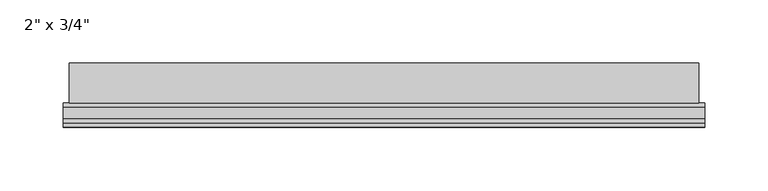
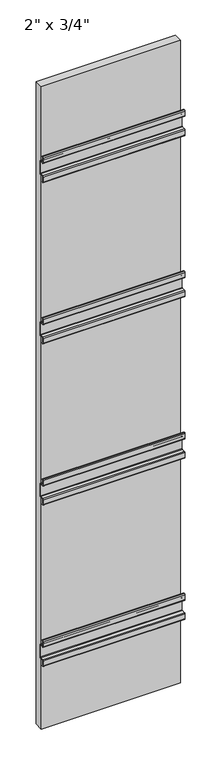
"""IFC4 building model written with IfcOpenShell, lengths in millimetres: plate geometry."""

from ifc_helpers import new_model, si_unit, point, frame, frame_2d, origin, place, context, project, spatial, polyline, circle_curve, trimmed, segment, composite_curve, outline, extrude, source, transform, mapped, element, save


def plate_c225038f(model_context):
    return source(origin(), model_context, "Body", "SweptSolid", [
        extrude(outline(composite_curve([segment(trimmed(circle_curve(frame_2d((3.175, 2085.975)), 3.175), [point((3.175, 2082.8))], [point((0.0, 2085.975))], False, "CARTESIAN"), True, "CONTINUOUS"), segment(polyline([(0.0, 2085.975), (0.0, 2104.2376)]), True, "CONTINUOUS"), segment(trimmed(circle_curve(frame_2d((3.175, 2104.2376)), 3.175), [point((0.0, 2104.2376))], [point((3.175, 2107.4126))], False, "CARTESIAN"), True, "CONTINUOUS"), segment(polyline([(3.175, 2107.4126), (15.875, 2107.4126)]), True, "CONTINUOUS"), segment(trimmed(circle_curve(frame_2d((15.875, 2109.0001)), 1.5875), [point((15.875, 2107.4126))], [point((17.4625, 2109.0001))], True, "CARTESIAN"), True, "CONTINUOUS"), segment(polyline([(17.4625, 2109.0001), (17.4625, 2153.4501)]), True, "CONTINUOUS"), segment(trimmed(circle_curve(frame_2d((15.875, 2153.4501)), 1.5875), [point((17.4625, 2153.4501))], [point((15.875, 2155.0376))], True, "CARTESIAN"), True, "CONTINUOUS"), segment(polyline([(15.875, 2155.0376), (3.175, 2155.0376)]), True, "CONTINUOUS"), segment(trimmed(circle_curve(frame_2d((3.175, 2158.2126)), 3.175), [point((3.175, 2155.0376))], [point((0.0, 2158.2126))], False, "CARTESIAN"), True, "CONTINUOUS"), segment(polyline([(0.0, 2158.2126), (0.0, 2176.4752)]), True, "CONTINUOUS"), segment(trimmed(circle_curve(frame_2d((3.175, 2176.4752)), 3.175), [point((0.0, 2176.4752))], [point((3.175, 2179.6502))], False, "CARTESIAN"), True, "CONTINUOUS"), segment(polyline([(3.175, 2179.6502), (6.35, 2179.6502), (6.35, 2178.0627), (3.175, 2178.0627)]), True, "CONTINUOUS"), segment(trimmed(circle_curve(frame_2d((3.175, 2176.4752)), 1.5875), [point((3.175, 2178.0627))], [point((1.5875, 2176.4752))], True, "CARTESIAN"), True, "CONTINUOUS"), segment(polyline([(1.5875, 2176.4752), (1.5875, 2158.2126)]), True, "CONTINUOUS"), segment(trimmed(circle_curve(frame_2d((3.175, 2158.2126)), 1.5875), [point((1.5875, 2158.2126))], [point((3.175, 2156.6251))], True, "CARTESIAN"), True, "CONTINUOUS"), segment(polyline([(3.175, 2156.6251), (15.875, 2156.6251)]), True, "CONTINUOUS"), segment(trimmed(circle_curve(frame_2d((15.875, 2153.4501)), 3.175), [point((15.875, 2156.6251))], [point((19.05, 2153.4501))], False, "CARTESIAN"), True, "CONTINUOUS"), segment(polyline([(19.05, 2153.4501), (19.05, 2109.0001)]), True, "CONTINUOUS"), segment(trimmed(circle_curve(frame_2d((15.875, 2109.0001)), 3.175), [point((19.05, 2109.0001))], [point((15.875, 2105.8251))], False, "CARTESIAN"), True, "CONTINUOUS"), segment(polyline([(15.875, 2105.8251), (3.175, 2105.8251)]), True, "CONTINUOUS"), segment(trimmed(circle_curve(frame_2d((3.175, 2104.2376)), 1.5875), [point((3.175, 2105.8251))], [point((1.5875, 2104.2376))], True, "CARTESIAN"), True, "CONTINUOUS"), segment(polyline([(1.5875, 2104.2376), (1.5875, 2085.975)]), True, "CONTINUOUS"), segment(trimmed(circle_curve(frame_2d((3.175, 2085.975)), 1.5875), [point((1.5875, 2085.975))], [point((3.175, 2084.3875))], True, "CARTESIAN"), True, "CONTINUOUS"), segment(polyline([(3.175, 2084.3875), (6.35, 2084.3875), (6.35, 2082.8), (3.175, 2082.8)]), True, "CONTINUOUS")], self_intersect=False)), frame((-253.9999998, 0.0, 0.0), z_axis=(1.0, 0.0, 0.0), x_axis=(0.0, 1.0, 0.0)), (0.0, 0.0, 1.0), 507.9999997),
        extrude(outline(composite_curve([segment(trimmed(circle_curve(frame_2d((3.175, 1476.375)), 3.175), [point((3.175, 1473.2))], [point((0.0, 1476.375))], False, "CARTESIAN"), True, "CONTINUOUS"), segment(polyline([(0.0, 1476.375), (0.0, 1494.6376)]), True, "CONTINUOUS"), segment(trimmed(circle_curve(frame_2d((3.175, 1494.6376)), 3.175), [point((0.0, 1494.6376))], [point((3.175, 1497.8126))], False, "CARTESIAN"), True, "CONTINUOUS"), segment(polyline([(3.175, 1497.8126), (15.875, 1497.8126)]), True, "CONTINUOUS"), segment(trimmed(circle_curve(frame_2d((15.875, 1499.4001)), 1.5875), [point((15.875, 1497.8126))], [point((17.4625, 1499.4001))], True, "CARTESIAN"), True, "CONTINUOUS"), segment(polyline([(17.4625, 1499.4001), (17.4625, 1543.8501)]), True, "CONTINUOUS"), segment(trimmed(circle_curve(frame_2d((15.875, 1543.8501)), 1.5875), [point((17.4625, 1543.8501))], [point((15.875, 1545.4376))], True, "CARTESIAN"), True, "CONTINUOUS"), segment(polyline([(15.875, 1545.4376), (3.175, 1545.4376)]), True, "CONTINUOUS"), segment(trimmed(circle_curve(frame_2d((3.175, 1548.6126)), 3.175), [point((3.175, 1545.4376))], [point((0.0, 1548.6126))], False, "CARTESIAN"), True, "CONTINUOUS"), segment(polyline([(0.0, 1548.6126), (0.0, 1566.8752)]), True, "CONTINUOUS"), segment(trimmed(circle_curve(frame_2d((3.175, 1566.8752)), 3.175), [point((0.0, 1566.8752))], [point((3.175, 1570.0502))], False, "CARTESIAN"), True, "CONTINUOUS"), segment(polyline([(3.175, 1570.0502), (6.35, 1570.0502), (6.35, 1568.4627), (3.175, 1568.4627)]), True, "CONTINUOUS"), segment(trimmed(circle_curve(frame_2d((3.175, 1566.8752)), 1.5875), [point((3.175, 1568.4627))], [point((1.5875, 1566.8752))], True, "CARTESIAN"), True, "CONTINUOUS"), segment(polyline([(1.5875, 1566.8752), (1.5875, 1548.6126)]), True, "CONTINUOUS"), segment(trimmed(circle_curve(frame_2d((3.175, 1548.6126)), 1.5875), [point((1.5875, 1548.6126))], [point((3.175, 1547.0251))], True, "CARTESIAN"), True, "CONTINUOUS"), segment(polyline([(3.175, 1547.0251), (15.875, 1547.0251)]), True, "CONTINUOUS"), segment(trimmed(circle_curve(frame_2d((15.875, 1543.8501)), 3.175), [point((15.875, 1547.0251))], [point((19.05, 1543.8501))], False, "CARTESIAN"), True, "CONTINUOUS"), segment(polyline([(19.05, 1543.8501), (19.05, 1499.4001)]), True, "CONTINUOUS"), segment(trimmed(circle_curve(frame_2d((15.875, 1499.4001)), 3.175), [point((19.05, 1499.4001))], [point((15.875, 1496.2251))], False, "CARTESIAN"), True, "CONTINUOUS"), segment(polyline([(15.875, 1496.2251), (3.175, 1496.2251)]), True, "CONTINUOUS"), segment(trimmed(circle_curve(frame_2d((3.175, 1494.6376)), 1.5875), [point((3.175, 1496.2251))], [point((1.5875, 1494.6376))], True, "CARTESIAN"), True, "CONTINUOUS"), segment(polyline([(1.5875, 1494.6376), (1.5875, 1476.375)]), True, "CONTINUOUS"), segment(trimmed(circle_curve(frame_2d((3.175, 1476.375)), 1.5875), [point((1.5875, 1476.375))], [point((3.175, 1474.7875))], True, "CARTESIAN"), True, "CONTINUOUS"), segment(polyline([(3.175, 1474.7875), (6.35, 1474.7875), (6.35, 1473.2), (3.175, 1473.2)]), True, "CONTINUOUS")], self_intersect=False)), frame((-253.9999998, 0.0, 0.0), z_axis=(1.0, 0.0, 0.0), x_axis=(0.0, 1.0, 0.0)), (0.0, 0.0, 1.0), 507.9999997),
        extrude(outline(composite_curve([segment(trimmed(circle_curve(frame_2d((3.175, 866.775)), 3.175), [point((3.175, 863.6))], [point((0.0, 866.775))], False, "CARTESIAN"), True, "CONTINUOUS"), segment(polyline([(0.0, 866.775), (0.0, 885.0376)]), True, "CONTINUOUS"), segment(trimmed(circle_curve(frame_2d((3.175, 885.0376)), 3.175), [point((0.0, 885.0376))], [point((3.175, 888.2126))], False, "CARTESIAN"), True, "CONTINUOUS"), segment(polyline([(3.175, 888.2126), (15.875, 888.2126)]), True, "CONTINUOUS"), segment(trimmed(circle_curve(frame_2d((15.875, 889.8001)), 1.5875), [point((15.875, 888.2126))], [point((17.4625, 889.8001))], True, "CARTESIAN"), True, "CONTINUOUS"), segment(polyline([(17.4625, 889.8001), (17.4625, 934.2501)]), True, "CONTINUOUS"), segment(trimmed(circle_curve(frame_2d((15.875, 934.2501)), 1.5875), [point((17.4625, 934.2501))], [point((15.875, 935.8376))], True, "CARTESIAN"), True, "CONTINUOUS"), segment(polyline([(15.875, 935.8376), (3.175, 935.8376)]), True, "CONTINUOUS"), segment(trimmed(circle_curve(frame_2d((3.175, 939.0126)), 3.175), [point((3.175, 935.8376))], [point((0.0, 939.0126))], False, "CARTESIAN"), True, "CONTINUOUS"), segment(polyline([(0.0, 939.0126), (0.0, 957.2752)]), True, "CONTINUOUS"), segment(trimmed(circle_curve(frame_2d((3.175, 957.2752)), 3.175), [point((0.0, 957.2752))], [point((3.175, 960.4502))], False, "CARTESIAN"), True, "CONTINUOUS"), segment(polyline([(3.175, 960.4502), (6.35, 960.4502), (6.35, 958.8627), (3.175, 958.8627)]), True, "CONTINUOUS"), segment(trimmed(circle_curve(frame_2d((3.175, 957.2752)), 1.5875), [point((3.175, 958.8627))], [point((1.5875, 957.2752))], True, "CARTESIAN"), True, "CONTINUOUS"), segment(polyline([(1.5875, 957.2752), (1.5875, 939.0126)]), True, "CONTINUOUS"), segment(trimmed(circle_curve(frame_2d((3.175, 939.0126)), 1.5875), [point((1.5875, 939.0126))], [point((3.175, 937.4251))], True, "CARTESIAN"), True, "CONTINUOUS"), segment(polyline([(3.175, 937.4251), (15.875, 937.4251)]), True, "CONTINUOUS"), segment(trimmed(circle_curve(frame_2d((15.875, 934.2501)), 3.175), [point((15.875, 937.4251))], [point((19.05, 934.2501))], False, "CARTESIAN"), True, "CONTINUOUS"), segment(polyline([(19.05, 934.2501), (19.05, 889.8001)]), True, "CONTINUOUS"), segment(trimmed(circle_curve(frame_2d((15.875, 889.8001)), 3.175), [point((19.05, 889.8001))], [point((15.875, 886.6251))], False, "CARTESIAN"), True, "CONTINUOUS"), segment(polyline([(15.875, 886.6251), (3.175, 886.6251)]), True, "CONTINUOUS"), segment(trimmed(circle_curve(frame_2d((3.175, 885.0376)), 1.5875), [point((3.175, 886.6251))], [point((1.5875, 885.0376))], True, "CARTESIAN"), True, "CONTINUOUS"), segment(polyline([(1.5875, 885.0376), (1.5875, 866.775)]), True, "CONTINUOUS"), segment(trimmed(circle_curve(frame_2d((3.175, 866.775)), 1.5875), [point((1.5875, 866.775))], [point((3.175, 865.1875))], True, "CARTESIAN"), True, "CONTINUOUS"), segment(polyline([(3.175, 865.1875), (6.35, 865.1875), (6.35, 863.6), (3.175, 863.6)]), True, "CONTINUOUS")], self_intersect=False)), frame((-253.9999998, 0.0, 0.0), z_axis=(1.0, 0.0, 0.0), x_axis=(0.0, 1.0, 0.0)), (0.0, 0.0, 1.0), 507.9999997),
        extrude(outline(composite_curve([segment(trimmed(circle_curve(frame_2d((3.175, 257.175)), 3.175), [point((3.175, 254.0))], [point((0.0, 257.175))], False, "CARTESIAN"), True, "CONTINUOUS"), segment(polyline([(0.0, 257.175), (0.0, 275.4376)]), True, "CONTINUOUS"), segment(trimmed(circle_curve(frame_2d((3.175, 275.4376)), 3.175), [point((0.0, 275.4376))], [point((3.175, 278.6126))], False, "CARTESIAN"), True, "CONTINUOUS"), segment(polyline([(3.175, 278.6126), (15.875, 278.6126)]), True, "CONTINUOUS"), segment(trimmed(circle_curve(frame_2d((15.875, 280.2001)), 1.5875), [point((15.875, 278.6126))], [point((17.4625, 280.2001))], True, "CARTESIAN"), True, "CONTINUOUS"), segment(polyline([(17.4625, 280.2001), (17.4625, 324.6501)]), True, "CONTINUOUS"), segment(trimmed(circle_curve(frame_2d((15.875, 324.6501)), 1.5875), [point((17.4625, 324.6501))], [point((15.875, 326.2376))], True, "CARTESIAN"), True, "CONTINUOUS"), segment(polyline([(15.875, 326.2376), (3.175, 326.2376)]), True, "CONTINUOUS"), segment(trimmed(circle_curve(frame_2d((3.175, 329.4126)), 3.175), [point((3.175, 326.2376))], [point((0.0, 329.4126))], False, "CARTESIAN"), True, "CONTINUOUS"), segment(polyline([(0.0, 329.4126), (0.0, 347.6752)]), True, "CONTINUOUS"), segment(trimmed(circle_curve(frame_2d((3.175, 347.6752)), 3.175), [point((0.0, 347.6752))], [point((3.175, 350.8502))], False, "CARTESIAN"), True, "CONTINUOUS"), segment(polyline([(3.175, 350.8502), (6.35, 350.8502), (6.35, 349.2627), (3.175, 349.2627)]), True, "CONTINUOUS"), segment(trimmed(circle_curve(frame_2d((3.175, 347.6752)), 1.5875), [point((3.175, 349.2627))], [point((1.5875, 347.6752))], True, "CARTESIAN"), True, "CONTINUOUS"), segment(polyline([(1.5875, 347.6752), (1.5875, 329.4126)]), True, "CONTINUOUS"), segment(trimmed(circle_curve(frame_2d((3.175, 329.4126)), 1.5875), [point((1.5875, 329.4126))], [point((3.175, 327.8251))], True, "CARTESIAN"), True, "CONTINUOUS"), segment(polyline([(3.175, 327.8251), (15.875, 327.8251)]), True, "CONTINUOUS"), segment(trimmed(circle_curve(frame_2d((15.875, 324.6501)), 3.175), [point((15.875, 327.8251))], [point((19.05, 324.6501))], False, "CARTESIAN"), True, "CONTINUOUS"), segment(polyline([(19.05, 324.6501), (19.05, 280.2001)]), True, "CONTINUOUS"), segment(trimmed(circle_curve(frame_2d((15.875, 280.2001)), 3.175), [point((19.05, 280.2001))], [point((15.875, 277.0251))], False, "CARTESIAN"), True, "CONTINUOUS"), segment(polyline([(15.875, 277.0251), (3.175, 277.0251)]), True, "CONTINUOUS"), segment(trimmed(circle_curve(frame_2d((3.175, 275.4376)), 1.5875), [point((3.175, 277.0251))], [point((1.5875, 275.4376))], True, "CARTESIAN"), True, "CONTINUOUS"), segment(polyline([(1.5875, 275.4376), (1.5875, 257.175)]), True, "CONTINUOUS"), segment(trimmed(circle_curve(frame_2d((3.175, 257.175)), 1.5875), [point((1.5875, 257.175))], [point((3.175, 255.5875))], True, "CARTESIAN"), True, "CONTINUOUS"), segment(polyline([(3.175, 255.5875), (6.35, 255.5875), (6.35, 254.0), (3.175, 254.0)]), True, "CONTINUOUS")], self_intersect=False)), frame((-253.9999998, 0.0, 0.0), z_axis=(1.0, 0.0, 0.0), x_axis=(0.0, 1.0, 0.0)), (0.0, 0.0, 1.0), 507.9999997),
        extrude(outline(polyline([(249.2374998, 19.05), (-249.2374998, 19.05), (-249.2374998, 50.8), (249.2374998, 50.8), (249.2374998, 19.05)])), frame((0.0, 0.0, 4.7625), z_axis=(0.0, 0.0, 1.0), x_axis=(1.0, 0.0, 0.0)), (0.0, 0.0, 1.0), 2428.875),
    ])


if __name__ == "__main__":
    model = new_model("IFC4")
    model_context = context("Model", 3, world=origin())
    ifc_project = project(units=[si_unit("LENGTHUNIT", "METRE", prefix="MILLI")], contexts=[model_context])
    site = spatial("IfcSite", under=ifc_project)
    building = spatial("IfcBuilding", under=site)
    placement = place(None, origin())
    plate_shape = plate_c225038f(model_context)
    element("IfcPlate", 1, ObjectType="KWS_Generic-Panel_w_PanelRail-H : 2\" x 3/4\"", at=placement, inside=building, context=model_context, shape_type="MappedRepresentation", body=[
        mapped(plate_shape, transform((0.0, 0.0, 0.0), x_axis=(1.0, 0.0, 0.0), y_axis=(0.0, 1.0, 0.0), z_axis=(0.0, 0.0, 1.0))),
    ])
    save(model, "model.ifc")
